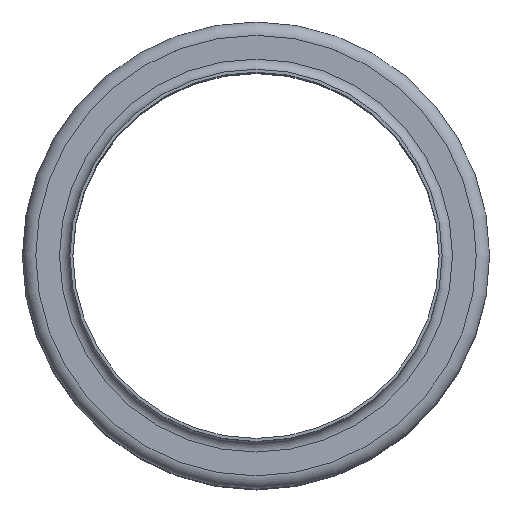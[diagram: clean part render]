
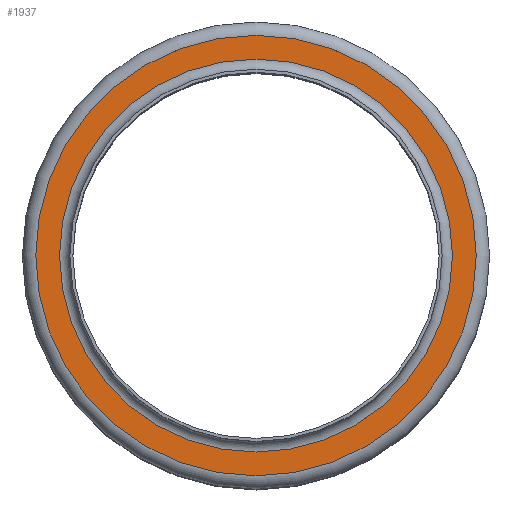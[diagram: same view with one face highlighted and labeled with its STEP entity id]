
A CAD part, top view. The second image highlights one B-rep face of the part: STEP entity #1937.
In plain terms, the highlighted planar face has unit normal (0, 0, 1).
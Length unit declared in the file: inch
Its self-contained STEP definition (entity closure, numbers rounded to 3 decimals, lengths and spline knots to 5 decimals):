
#282=FACE_BOUND('',#646,.T.);
#425=FACE_OUTER_BOUND('',#645,.T.);
#645=EDGE_LOOP('',(#1674));
#646=EDGE_LOOP('',(#1675));
#869=CIRCLE('',#2315,1.55575);
#870=CIRCLE('',#2317,1.74425);
#1026=VERTEX_POINT('',#3581);
#1027=VERTEX_POINT('',#3585);
#1245=EDGE_CURVE('',#1026,#1026,#869,.T.);
#1246=EDGE_CURVE('',#1027,#1027,#870,.T.);
#1674=ORIENTED_EDGE('',*,*,#1246,.F.);
#1675=ORIENTED_EDGE('',*,*,#1245,.T.);
#1794=PLANE('',#2316);
#1937=ADVANCED_FACE('',(#425,#282),#1794,.T.);
#2315=AXIS2_PLACEMENT_3D('',#3583,#3027,#3028);
#2316=AXIS2_PLACEMENT_3D('',#3584,#3029,#3030);
#2317=AXIS2_PLACEMENT_3D('',#3586,#3031,#3032);
#3027=DIRECTION('center_axis',(0.,0.,-1.));
#3028=DIRECTION('ref_axis',(1.,0.,0.));
#3029=DIRECTION('center_axis',(0.,0.,1.));
#3030=DIRECTION('ref_axis',(1.,0.,0.));
#3031=DIRECTION('center_axis',(0.,0.,-1.));
#3032=DIRECTION('ref_axis',(1.,0.,0.));
#3581=CARTESIAN_POINT('',(1.55575,0.,-0.08175));
#3583=CARTESIAN_POINT('Origin',(0.,0.,-0.08175));
#3584=CARTESIAN_POINT('Origin',(0.,1.74425,-0.08175));
#3585=CARTESIAN_POINT('',(1.74425,0.,-0.08175));
#3586=CARTESIAN_POINT('Origin',(0.,0.,-0.08175));
